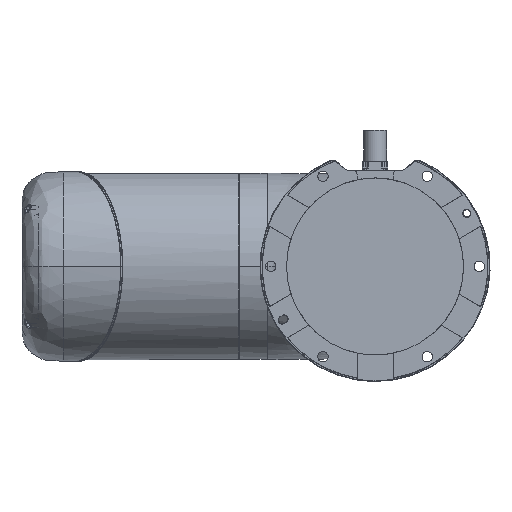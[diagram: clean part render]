
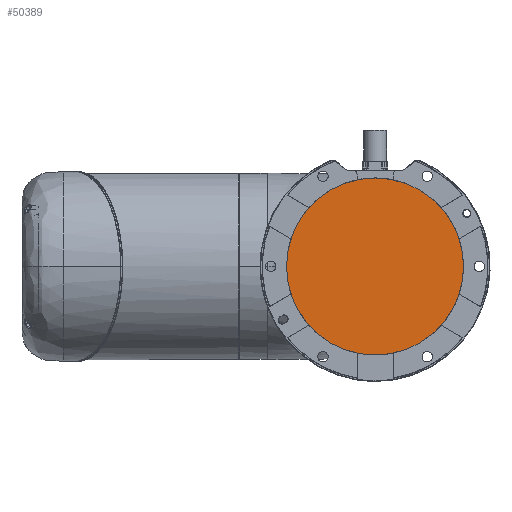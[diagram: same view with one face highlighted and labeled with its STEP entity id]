
A CAD part, front view. The second image highlights one B-rep face of the part: STEP entity #50389.
In plain terms, the highlighted planar face has unit normal (0, -1, 0).
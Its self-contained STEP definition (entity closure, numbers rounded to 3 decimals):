
#3766 = CARTESIAN_POINT ( 'NONE',  ( 0., 2.8, 0. ) ) ;
#4652 = DIRECTION ( 'NONE',  ( 0., -1., 0. ) ) ;
#14607 = DIRECTION ( 'NONE',  ( 0., 0., -1. ) ) ;
#33980 = EDGE_LOOP ( 'NONE', ( #165073, #61779 ) ) ;
#38854 = AXIS2_PLACEMENT_3D ( 'NONE', #94879, #148651, #14607 ) ;
#50389 = ADVANCED_FACE ( 'NONE', ( #137793 ), #97238, .T. ) ;
#51921 = CARTESIAN_POINT ( 'NONE',  ( 0., 2.8, 0. ) ) ;
#60934 = EDGE_CURVE ( 'NONE', #122695, #100387, #140326, .T. ) ;
#61779 = ORIENTED_EDGE ( 'NONE', *, *, #60934, .T. ) ;
#66713 = CIRCLE ( 'NONE', #170976, 98.5 ) ;
#70635 = CARTESIAN_POINT ( 'NONE',  ( 0., 2.8, -98.5 ) ) ;
#72461 = DIRECTION ( 'NONE',  ( 0., 0., -1. ) ) ;
#88598 = CARTESIAN_POINT ( 'NONE',  ( 0., 2.8, 98.5 ) ) ;
#90747 = DIRECTION ( 'NONE',  ( 0., -1., 0. ) ) ;
#92501 = DIRECTION ( 'NONE',  ( 0., 0., -1. ) ) ;
#94879 = CARTESIAN_POINT ( 'NONE',  ( 0., 2.8, 0. ) ) ;
#97238 = PLANE ( 'NONE',  #169514 ) ;
#100387 = VERTEX_POINT ( 'NONE', #70635 ) ;
#122695 = VERTEX_POINT ( 'NONE', #88598 ) ;
#123444 = EDGE_CURVE ( 'NONE', #100387, #122695, #66713, .T. ) ;
#137793 = FACE_OUTER_BOUND ( 'NONE', #33980, .T. ) ;
#140326 = CIRCLE ( 'NONE', #38854, 98.5 ) ;
#148651 = DIRECTION ( 'NONE',  ( 0., -1., 0. ) ) ;
#165073 = ORIENTED_EDGE ( 'NONE', *, *, #123444, .T. ) ;
#169514 = AXIS2_PLACEMENT_3D ( 'NONE', #3766, #4652, #72461 ) ;
#170976 = AXIS2_PLACEMENT_3D ( 'NONE', #51921, #90747, #92501 ) ;
